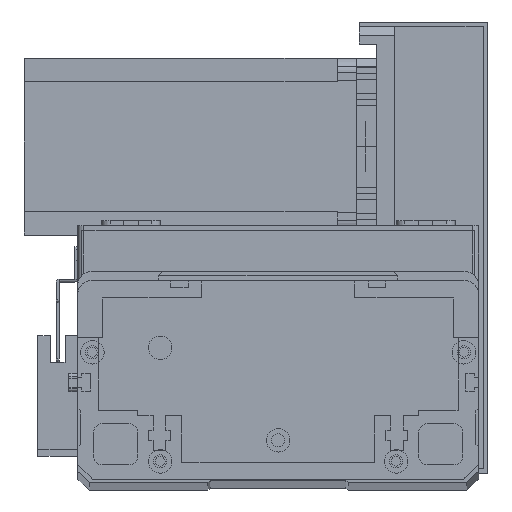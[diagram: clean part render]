
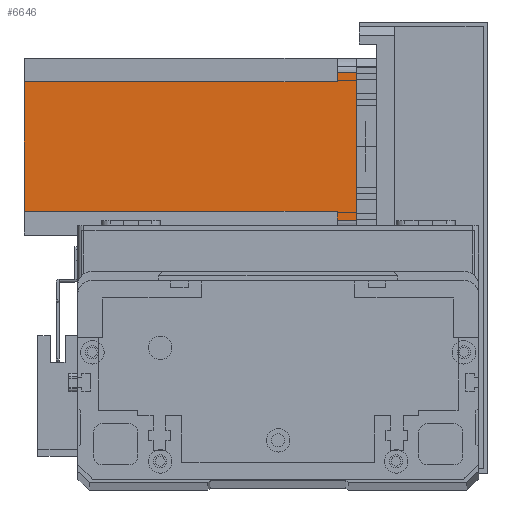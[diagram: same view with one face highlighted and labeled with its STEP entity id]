
A CAD part, top view. The second image highlights one B-rep face of the part: STEP entity #6646.
In plain terms, the highlighted planar face has unit normal (0, 0, 1) as drawn and (0, 1, 0) by its records, which use the part's own axes.
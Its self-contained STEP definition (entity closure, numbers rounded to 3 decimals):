
#454 = LINE ( 'NONE', #23272, #24295 ) ;
#829 = CARTESIAN_POINT ( 'NONE',  ( 8., 60., -112.5 ) ) ;
#959 = DIRECTION ( 'NONE',  ( 0., 0., 1. ) ) ;
#1067 = DIRECTION ( 'NONE',  ( 0., 1., 0. ) ) ;
#1677 = ORIENTED_EDGE ( 'NONE', *, *, #21348, .T. ) ;
#2364 = VERTEX_POINT ( 'NONE', #17981 ) ;
#2758 = PLANE ( 'NONE',  #3225 ) ;
#3030 = LINE ( 'NONE', #26407, #8723 ) ;
#3225 = AXIS2_PLACEMENT_3D ( 'NONE', #6269, #1067, #959 ) ;
#3328 = ORIENTED_EDGE ( 'NONE', *, *, #19374, .T. ) ;
#3418 = VERTEX_POINT ( 'NONE', #26923 ) ;
#4574 = LINE ( 'NONE', #26700, #10164 ) ;
#4771 = CARTESIAN_POINT ( 'NONE',  ( 52., 60., -6.5 ) ) ;
#6269 = CARTESIAN_POINT ( 'NONE',  ( 0., 60., -112.5 ) ) ;
#6423 = VERTEX_POINT ( 'NONE', #27775 ) ;
#6484 = VECTOR ( 'NONE', #20780, 1000. ) ;
#6646 = ADVANCED_FACE ( 'NONE', ( #14601 ), #2758, .T. ) ;
#8622 = CARTESIAN_POINT ( 'NONE',  ( 8., 60., -6.5 ) ) ;
#8723 = VECTOR ( 'NONE', #17611, 1000. ) ;
#8799 = LINE ( 'NONE', #10661, #20103 ) ;
#9101 = EDGE_LOOP ( 'NONE', ( #17504, #3328, #25178, #15912, #1677, #11361, #15623, #19849 ) ) ;
#10076 = VERTEX_POINT ( 'NONE', #12716 ) ;
#10084 = VECTOR ( 'NONE', #28731, 1000. ) ;
#10164 = VECTOR ( 'NONE', #11088, 1000. ) ;
#10372 = EDGE_CURVE ( 'NONE', #2364, #3418, #454, .T. ) ;
#10661 = CARTESIAN_POINT ( 'NONE',  ( 55., 60., -112.5 ) ) ;
#11088 = DIRECTION ( 'NONE',  ( 0., 0., 1. ) ) ;
#11361 = ORIENTED_EDGE ( 'NONE', *, *, #22344, .F. ) ;
#12716 = CARTESIAN_POINT ( 'NONE',  ( 52., 60., -112.5 ) ) ;
#14601 = FACE_OUTER_BOUND ( 'NONE', #9101, .T. ) ;
#15623 = ORIENTED_EDGE ( 'NONE', *, *, #22598, .T. ) ;
#15638 = VERTEX_POINT ( 'NONE', #829 ) ;
#15912 = ORIENTED_EDGE ( 'NONE', *, *, #20718, .F. ) ;
#16112 = LINE ( 'NONE', #8622, #10084 ) ;
#16359 = VERTEX_POINT ( 'NONE', #18730 ) ;
#17227 = LINE ( 'NONE', #19311, #28948 ) ;
#17504 = ORIENTED_EDGE ( 'NONE', *, *, #10372, .F. ) ;
#17611 = DIRECTION ( 'NONE',  ( 0., 0., 1. ) ) ;
#17981 = CARTESIAN_POINT ( 'NONE',  ( 55., 60., 0. ) ) ;
#18573 = VECTOR ( 'NONE', #23384, 1000. ) ;
#18730 = CARTESIAN_POINT ( 'NONE',  ( 52., 60., -6.5 ) ) ;
#19076 = CARTESIAN_POINT ( 'NONE',  ( 5., 60., -6.5 ) ) ;
#19311 = CARTESIAN_POINT ( 'NONE',  ( 0., 60., -112.5 ) ) ;
#19374 = EDGE_CURVE ( 'NONE', #2364, #21005, #8799, .T. ) ;
#19849 = ORIENTED_EDGE ( 'NONE', *, *, #24989, .T. ) ;
#19858 = VERTEX_POINT ( 'NONE', #19076 ) ;
#20103 = VECTOR ( 'NONE', #24070, 1000. ) ;
#20359 = EDGE_CURVE ( 'NONE', #16359, #21005, #24563, .T. ) ;
#20664 = CARTESIAN_POINT ( 'NONE',  ( 55., 60., -6.5 ) ) ;
#20718 = EDGE_CURVE ( 'NONE', #10076, #16359, #3030, .T. ) ;
#20780 = DIRECTION ( 'NONE',  ( 1., 0., 0. ) ) ;
#21005 = VERTEX_POINT ( 'NONE', #20664 ) ;
#21111 = CARTESIAN_POINT ( 'NONE',  ( 8., 60., -112.5 ) ) ;
#21348 = EDGE_CURVE ( 'NONE', #10076, #15638, #17227, .T. ) ;
#22077 = DIRECTION ( 'NONE',  ( -1., 0., 0. ) ) ;
#22344 = EDGE_CURVE ( 'NONE', #6423, #15638, #24492, .T. ) ;
#22598 = EDGE_CURVE ( 'NONE', #6423, #19858, #16112, .T. ) ;
#23272 = CARTESIAN_POINT ( 'NONE',  ( 0., 60., 0. ) ) ;
#23384 = DIRECTION ( 'NONE',  ( 0., 0., -1. ) ) ;
#24070 = DIRECTION ( 'NONE',  ( 0., 0., -1. ) ) ;
#24295 = VECTOR ( 'NONE', #22077, 1000. ) ;
#24492 = LINE ( 'NONE', #21111, #18573 ) ;
#24563 = LINE ( 'NONE', #4771, #6484 ) ;
#24989 = EDGE_CURVE ( 'NONE', #19858, #3418, #4574, .T. ) ;
#25178 = ORIENTED_EDGE ( 'NONE', *, *, #20359, .F. ) ;
#26407 = CARTESIAN_POINT ( 'NONE',  ( 52., 60., -112.5 ) ) ;
#26700 = CARTESIAN_POINT ( 'NONE',  ( 5., 60., -112.5 ) ) ;
#26923 = CARTESIAN_POINT ( 'NONE',  ( 5., 60., 0. ) ) ;
#27775 = CARTESIAN_POINT ( 'NONE',  ( 8., 60., -6.5 ) ) ;
#28194 = DIRECTION ( 'NONE',  ( -1., 0., 0. ) ) ;
#28731 = DIRECTION ( 'NONE',  ( -1., 0., 0. ) ) ;
#28948 = VECTOR ( 'NONE', #28194, 1000. ) ;
